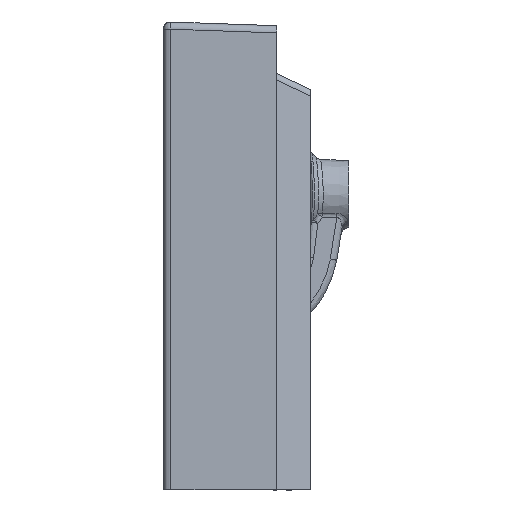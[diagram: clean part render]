
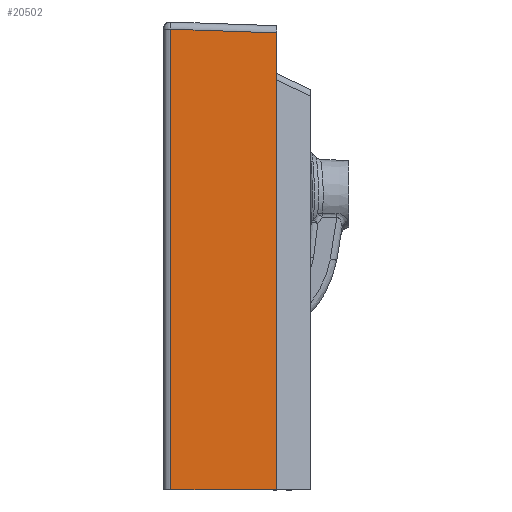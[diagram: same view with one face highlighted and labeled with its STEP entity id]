
A CAD part, left-side view. The second image highlights one B-rep face of the part: STEP entity #20502.
In plain terms, the highlighted planar face has unit normal (-0.999, -0.035, 0).
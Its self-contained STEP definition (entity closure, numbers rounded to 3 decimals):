
#32 = LINE ( 'NONE', #33772, #16641 ) ;
#3669 = CARTESIAN_POINT ( 'NONE',  ( -349.659, -110., -265. ) ) ;
#4521 = CARTESIAN_POINT ( 'NONE',  ( -347.571, -169.793, -265. ) ) ;
#4918 = LINE ( 'NONE', #39262, #40389 ) ;
#6520 = EDGE_CURVE ( 'NONE', #31512, #36973, #33408, .T. ) ;
#9546 = DIRECTION ( 'NONE',  ( 0., 0., -1. ) ) ;
#10553 = DIRECTION ( 'NONE',  ( 0., 0., -1. ) ) ;
#11778 = EDGE_CURVE ( 'NONE', #43891, #36973, #32, .T. ) ;
#14034 = EDGE_CURVE ( 'NONE', #18756, #43891, #4918, .T. ) ;
#16641 = VECTOR ( 'NONE', #9546, 1000. ) ;
#18756 = VERTEX_POINT ( 'NONE', #33631 ) ;
#19432 = VECTOR ( 'NONE', #28588, 1000. ) ;
#20502 = ADVANCED_FACE ( 'NONE', ( #34454 ), #26047, .T. ) ;
#21776 = ORIENTED_EDGE ( 'NONE', *, *, #22841, .F. ) ;
#22537 = CARTESIAN_POINT ( 'NONE',  ( -353.247, -7.244, -265. ) ) ;
#22841 = EDGE_CURVE ( 'NONE', #18756, #31512, #43007, .T. ) ;
#26047 = PLANE ( 'NONE',  #34391 ) ;
#26195 = EDGE_LOOP ( 'NONE', ( #32191, #28452, #29811, #21776 ) ) ;
#28452 = ORIENTED_EDGE ( 'NONE', *, *, #11778, .T. ) ;
#28588 = DIRECTION ( 'NONE',  ( -0.035, 0.999, 0. ) ) ;
#29811 = ORIENTED_EDGE ( 'NONE', *, *, #6520, .F. ) ;
#31512 = VERTEX_POINT ( 'NONE', #41287 ) ;
#32191 = ORIENTED_EDGE ( 'NONE', *, *, #14034, .T. ) ;
#32980 = CARTESIAN_POINT ( 'NONE',  ( -353.5, 0., -265. ) ) ;
#33408 = LINE ( 'NONE', #4521, #19432 ) ;
#33631 = CARTESIAN_POINT ( 'NONE',  ( -349.659, -110., 179.163 ) ) ;
#33772 = CARTESIAN_POINT ( 'NONE',  ( -353.247, -7.244, -265. ) ) ;
#34391 = AXIS2_PLACEMENT_3D ( 'NONE', #32980, #42756, #36283 ) ;
#34454 = FACE_OUTER_BOUND ( 'NONE', #26195, .T. ) ;
#36283 = DIRECTION ( 'NONE',  ( 0.035, -0.999, 0. ) ) ;
#36973 = VERTEX_POINT ( 'NONE', #22537 ) ;
#38232 = VECTOR ( 'NONE', #10553, 1000. ) ;
#39089 = CARTESIAN_POINT ( 'NONE',  ( -353.247, -7.244, 182.751 ) ) ;
#39262 = CARTESIAN_POINT ( 'NONE',  ( -352.955, -15.607, 182.459 ) ) ;
#40389 = VECTOR ( 'NONE', #43157, 1000. ) ;
#41287 = CARTESIAN_POINT ( 'NONE',  ( -349.659, -110., -265. ) ) ;
#42756 = DIRECTION ( 'NONE',  ( -0.999, -0.035, 0. ) ) ;
#43007 = LINE ( 'NONE', #3669, #38232 ) ;
#43157 = DIRECTION ( 'NONE',  ( -0.035, 0.999, 0.035 ) ) ;
#43891 = VERTEX_POINT ( 'NONE', #39089 ) ;
